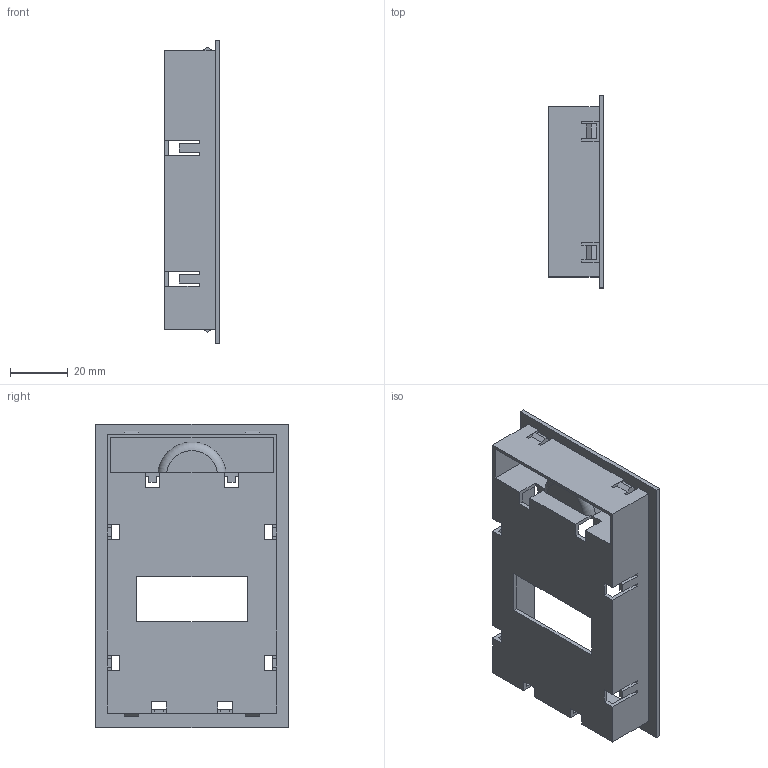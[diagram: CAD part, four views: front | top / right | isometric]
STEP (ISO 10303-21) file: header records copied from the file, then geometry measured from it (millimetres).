
FILE_DESCRIPTION(('STEP AP203'), '1');
FILE_NAME('Ðàìêà ìîíòàæíàÿ _ FCI-MF-S', '', ('UNSPECIFIED'), ('UNSPECIFIED'), 'C3D Converter', 'C3D Toolkit', '');
FILE_SCHEMA(('CONFIG_CONTROL_DESIGN'));
Length unit declared in the file: millimetre
Products named in the file (1): FCI-MF-S
Bounding box: 19 x 66.6 x 105 mm (x, y, z)
Volume: 16962.6 mm3; surface area: 25956.3 mm2
Topology: 1 solids, 1 shells, 141 faces, 467 edges, 310 vertices
Faces by surface type: plane 132, cylinder 6, torus 3
Entity records: 6310 total; most frequent: CARTESIAN_POINT 1013, ORIENTED_EDGE 934, DIRECTION 764, EDGE_CURVE 467, LINE 442, VECTOR 442, VERTEX_POINT 310, AXIS2_PLACEMENT_3D 161
